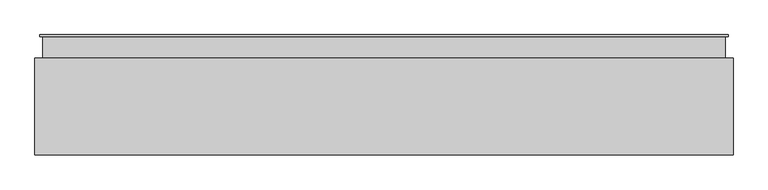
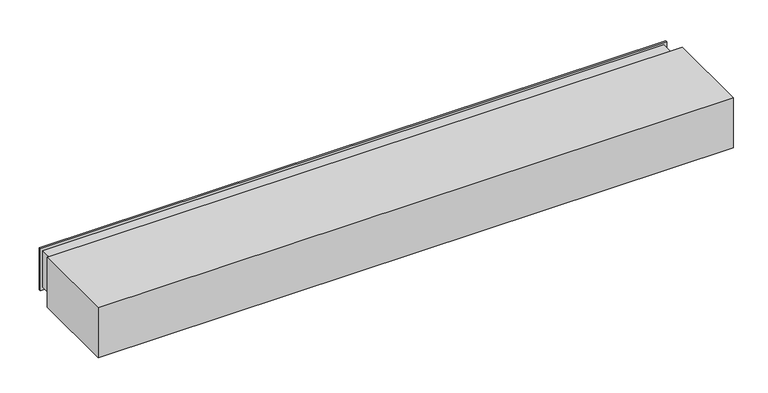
"""IFC4 building model written with IfcOpenShell, lengths in millimetres: air terminal geometry, 020_排気ガラリ : 排気ガラリ."""

from ifc_helpers import new_model, si_unit, frame, origin, place, context, project, spatial, polyline, outline, extrude, faceted_brep, source, transform, mapped, element, save


def air_terminal_fb7e6bc4(model_context):
    return source(origin(), model_context, "Body", "SolidModel", [
        extrude(outline(polyline([(-48.0, 53.3333333), (-48.0, 38.3333333), (10.0, 8.3333333), (10.0, -6.6666667), (8.0, -6.6666667), (8.0, 7.1161157), (-50.0, 37.1161157), (-50.0, 53.3333333), (-48.0, 53.3333333)])), frame((-1750.0, 0.0, 0.0), z_axis=(1.0, 0.0, 0.0), x_axis=(0.0, 1.0, 0.0)), (0.0, 0.0, 1.0), 3500.0),
        extrude(outline(polyline([(-48.0, 6.6666667), (-48.0, -8.3333333), (10.0, -38.3333333), (10.0, -53.3333333), (8.0, -53.3333333), (8.0, -39.5505509), (-50.0, -9.5505509), (-50.0, 6.6666667), (-48.0, 6.6666667)])), frame((-1750.0, 0.0, 0.0), z_axis=(1.0, 0.0, 0.0), x_axis=(0.0, 1.0, 0.0)), (0.0, 0.0, 1.0), 3500.0),
        extrude(outline(polyline([(-48.0, 100.0), (-48.0, 85.0), (10.0, 55.0), (10.0, 40.0), (8.0, 40.0), (8.0, 53.7827824), (-50.0, 83.7827824), (-50.0, 100.0), (-48.0, 100.0)])), frame((-1750.0, 0.0, 0.0), z_axis=(1.0, 0.0, 0.0), x_axis=(0.0, 1.0, 0.0)), (0.0, 0.0, 1.0), 3500.0),
        extrude(outline(polyline([(-48.0, -40.0), (-48.0, -55.0), (10.0, -85.0), (10.0, -100.0), (8.0, -100.0), (8.0, -86.2172176), (-50.0, -56.2172176), (-50.0, -40.0), (-48.0, -40.0)])), frame((-1750.0, 0.0, 0.0), z_axis=(1.0, 0.0, 0.0), x_axis=(0.0, 1.0, 0.0)), (0.0, 0.0, 1.0), 3500.0),
        faceted_brep([(1750.0, 10.0, 100.0), (1750.0, 10.0, -100.0), (1750.0, -110.0, -100.0), (1750.0, -110.0, 100.0), (1775.0, 0.0, 125.0), (1775.0, 0.0, -125.0), (1775.0, 10.0, -125.0), (1775.0, 10.0, 125.0), (1760.0, -110.0, 110.0), (1760.0, -110.0, -110.0), (1760.0, 0.0, -110.0), (1760.0, 0.0, 110.0), (-1750.0, 10.0, -100.0), (-1750.0, -110.0, -100.0), (-1775.0, 0.0, -125.0), (-1775.0, 10.0, -125.0), (-1760.0, -110.0, -110.0), (-1760.0, 0.0, -110.0), (-1750.0, 10.0, 100.0), (-1750.0, -110.0, 100.0), (-1775.0, 0.0, 125.0), (-1775.0, 10.0, 125.0), (-1760.0, -110.0, 110.0), (-1760.0, 0.0, 110.0)], [[[0, 1, 2, 3]], [[4, 5, 6, 7]], [[8, 9, 10, 11]], [[1, 12, 13, 2]], [[5, 14, 15, 6]], [[9, 16, 17, 10]], [[12, 18, 19, 13]], [[14, 20, 21, 15]], [[16, 22, 23, 17]], [[18, 0, 3, 19]], [[7, 6, 15, 21], [1, 0, 18, 12]], [[20, 4, 7, 21]], [[5, 4, 20, 14], [11, 10, 17, 23]], [[22, 8, 11, 23]], [[9, 8, 22, 16], [3, 2, 13, 19]]]),
        extrude(outline(polyline([(1750.0, 0.0), (1750.0, -10.0), (-1750.0, -10.0), (-1750.0, 0.0), (1750.0, 0.0)])), frame((0.0, 0.0, -100.0), z_axis=(0.0, 0.0, 1.0), x_axis=(1.0, 0.0, 0.0)), (0.0, 0.0, 1.0), 200.0),
        extrude(outline(polyline([(1800.0, -110.0), (1800.0, -610.0), (-1800.0, -610.0), (-1800.0, -110.0), (1800.0, -110.0)])), frame((0.0, 0.0, -150.0), z_axis=(0.0, 0.0, 1.0), x_axis=(1.0, 0.0, 0.0)), (0.0, 0.0, 1.0), 300.0),
    ])


if __name__ == "__main__":
    model = new_model("IFC4")
    model_context = context("Model", 3, world=origin())
    ifc_project = project(units=[si_unit("LENGTHUNIT", "METRE", prefix="MILLI")], contexts=[model_context])
    site = spatial("IfcSite", under=ifc_project)
    building = spatial("IfcBuilding", under=site)
    placement = place(None, origin())
    air_terminal_shape = air_terminal_fb7e6bc4(model_context)
    element("IfcAirTerminal", 1, ObjectType="020_排気ガラリ : 排気ガラリ", at=placement, inside=building, context=model_context, shape_type="MappedRepresentation", body=[
        mapped(air_terminal_shape, transform((0.0, 0.0, 0.0), x_axis=(1.0, 0.0, 0.0), y_axis=(0.0, 1.0, 0.0), z_axis=(0.0, 0.0, 1.0))),
    ])
    save(model, "model.ifc")
